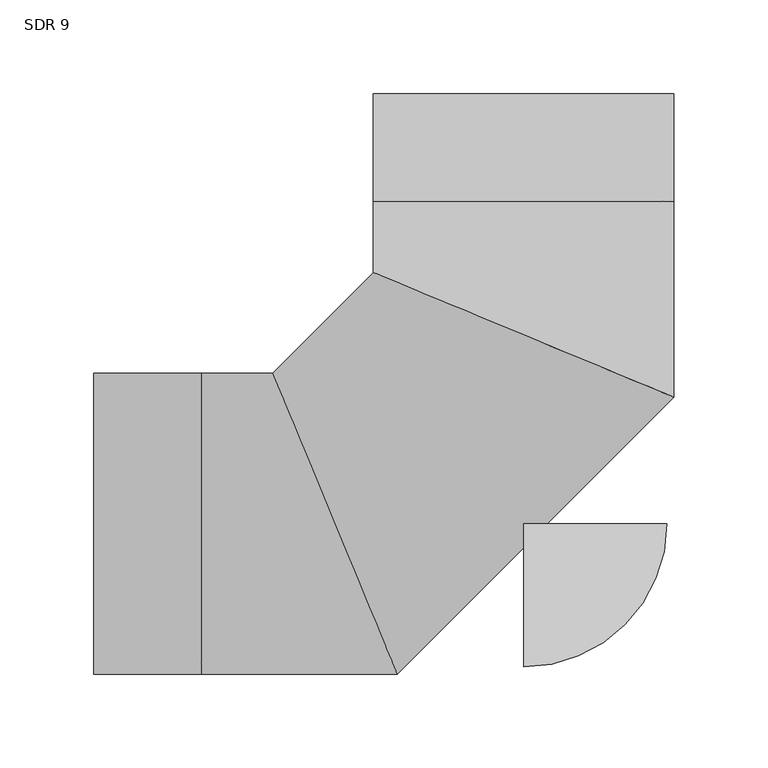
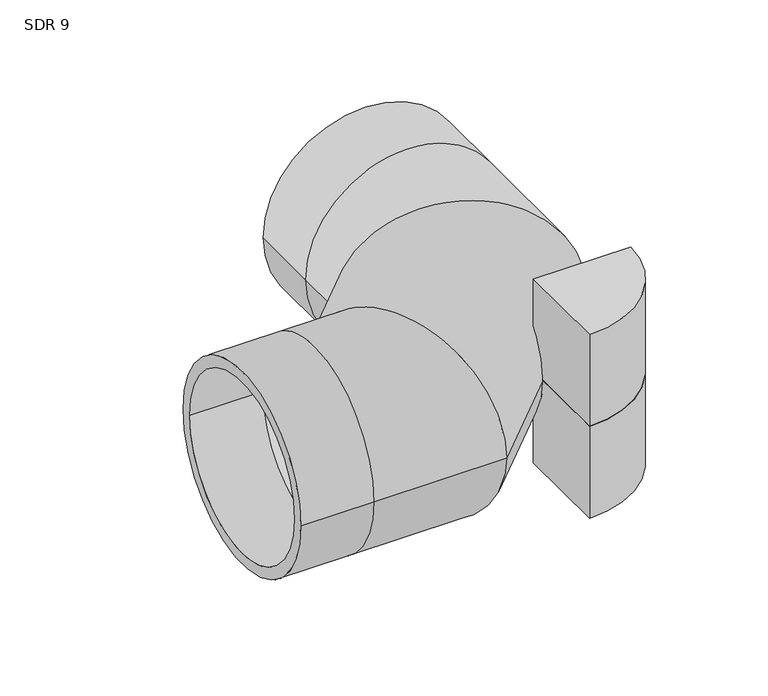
"""IFC4 building model written with IfcOpenShell, lengths in millimetres: pipe fitting geometry, Aquatherm - Elbow Blue BW Segmented : SDR 9."""

from ifc_helpers import new_model, si_unit, point, frame, origin, origin_with_axes, origin_2d, place, context, project, spatial, polyline, circle_curve, ellipse_curve, trimmed, segment, composite_curve, outline, extrude, source, transform, mapped, element, save
from ifc_brep_helpers import plane_surface, cylinder_surface, revolved_surface, advanced_brep


def sdr_9_1bad2ec4(model_context):
    return source(origin(), model_context, "Body", "SolidModel", [
        extrude(outline(composite_curve([segment(polyline([(0.0, -76.2), (0.0, 0.0), (76.2, 0.0)]), True, "CONTINUOUS"), segment(trimmed(circle_curve(origin_2d(), 76.2), [point((76.2, 0.0))], [point((0.0, -76.2))], False, "CARTESIAN"), True, "CONTINUOUS")], self_intersect=False)), frame((0.0, 0.0, -76.2), z_axis=(0.0, 0.0, 1.0), x_axis=(1.0, 0.0, 0.0)), (0.0, 0.0, 1.0), 76.2),
        extrude(outline(composite_curve([segment(trimmed(circle_curve(origin_2d(), 76.2), [point((76.2, 0.0))], [point((0.0, -76.2))], False, "CARTESIAN"), True, "CONTINUOUS"), segment(polyline([(0.0, -76.2), (0.0, 0.0), (76.2, 0.0)]), True, "CONTINUOUS")], self_intersect=False)), origin_with_axes(), (0.0, 0.0, 1.0), 76.2),
        advanced_brep(
        [(-228.6, -80.01, 0.0), (-228.6, 80.01, 0.0), (-228.6, -70.9187617, 0.0), (-228.6, 70.9187617, 0.0), (80.01, 228.6, 0.0), (-80.01, 228.6, 0.0), (70.9187617, 228.6, 0.0), (-70.9187617, 228.6, 0.0), (-171.45, -80.01, 0.0), (-171.45, 80.01, 0.0), (-171.45, -70.9187617, 0.0), (-171.45, 70.9187617, 0.0), (-67.2918576, -80.01, 0.0), (-133.5743119, 80.01, 0.0), (-71.0575718, -70.9187617, 0.0), (-129.8085976, 70.9187617, 0.0), (80.01, 67.2918576, 0.0), (-80.01, 133.5743119, 0.0), (70.9187617, 71.0575718, 0.0), (-70.9187617, 129.8085976, 0.0), (-80.01, 171.45, 0.0), (80.01, 171.45, 0.0), (-70.9187617, 171.45, 0.0), (70.9187617, 171.45, 0.0)],
        [
            (0, 1, circle_curve(frame((-228.6, 0.0, 0.0), z_axis=(-1.0, 0.0, 0.0), x_axis=(0.0, 1.0, 0.0)), 80.01)),
            (1, 0, circle_curve(frame((-228.6, 0.0, 0.0), z_axis=(-1.0, 0.0, 0.0), x_axis=(0.0, 1.0, 0.0)), 80.01)),
            (2, 3, circle_curve(frame((-228.6, 0.0, 0.0), z_axis=(1.0, 0.0, 0.0), x_axis=(0.0, 1.0, 0.0)), 70.9187617)),
            (3, 2, circle_curve(frame((-228.6, 0.0, 0.0), z_axis=(1.0, 0.0, 0.0), x_axis=(0.0, 1.0, 0.0)), 70.9187617)),
            (4, 5, circle_curve(frame((0.0, 228.6, 0.0), z_axis=(0.0, 1.0, 0.0), x_axis=(-1.0, 0.0, 0.0)), 80.01)),
            (5, 4, circle_curve(frame((0.0, 228.6, 0.0), z_axis=(0.0, 1.0, 0.0), x_axis=(-1.0, 0.0, 0.0)), 80.01)),
            (6, 7, circle_curve(frame((0.0, 228.6, 0.0), z_axis=(0.0, -1.0, 0.0), x_axis=(-1.0, 0.0, 0.0)), 70.9187617)),
            (7, 6, circle_curve(frame((0.0, 228.6, 0.0), z_axis=(0.0, -1.0, 0.0), x_axis=(-1.0, 0.0, 0.0)), 70.9187617)),
            (0, 8),
            (8, 9, circle_curve(frame((-171.45, 0.0, 0.0), z_axis=(-1.0, 0.0, 0.0), x_axis=(0.0, 1.0, 0.0)), 80.01)),
            (9, 1),
            (9, 8, circle_curve(frame((-171.45, 0.0, 0.0), z_axis=(-1.0, 0.0, 0.0), x_axis=(0.0, 1.0, 0.0)), 80.01)),
            (2, 10),
            (10, 11, circle_curve(frame((-171.45, 0.0, 0.0), z_axis=(1.0, 0.0, 0.0), x_axis=(0.0, 1.0, 0.0)), 70.9187617)),
            (11, 3),
            (11, 10, circle_curve(frame((-171.45, 0.0, 0.0), z_axis=(1.0, 0.0, 0.0), x_axis=(0.0, 1.0, 0.0)), 70.9187617)),
            (8, 12),
            (12, 13, ellipse_curve(frame((-100.4330847, 0.0, 0.0), z_axis=(-0.9238795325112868, -0.38268343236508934, 0.0), x_axis=(-0.3826834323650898, 0.9238795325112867, 0.0)), 86.6021999, 80.01)),
            (13, 9),
            (13, 12, ellipse_curve(frame((-100.4330847, 0.0, 0.0), z_axis=(-0.9238795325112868, -0.38268343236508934, 0.0), x_axis=(-0.3826834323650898, 0.9238795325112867, 0.0)), 86.6021999, 80.01)),
            (10, 14),
            (14, 15, ellipse_curve(frame((-100.4330847, 0.0, 0.0), z_axis=(0.9238795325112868, 0.38268343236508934, 0.0), x_axis=(0.3826834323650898, -0.9238795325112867, 0.0)), 76.7619145, 70.9187617)),
            (15, 11),
            (15, 14, ellipse_curve(frame((-100.4330847, 0.0, 0.0), z_axis=(0.9238795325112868, 0.38268343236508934, 0.0), x_axis=(0.3826834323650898, -0.9238795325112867, 0.0)), 76.7619145, 70.9187617)),
            (12, 16),
            (16, 17, ellipse_curve(frame((0.0, 100.4330847, 0.0), z_axis=(-0.3826834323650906, -0.9238795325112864, 0.0), x_axis=(-0.9238795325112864, 0.3826834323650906, 0.0)), 86.6021999, 80.01)),
            (17, 13),
            (17, 16, ellipse_curve(frame((0.0, 100.4330847, 0.0), z_axis=(-0.3826834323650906, -0.9238795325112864, 0.0), x_axis=(-0.9238795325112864, 0.3826834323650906, 0.0)), 86.6021999, 80.01)),
            (14, 18),
            (18, 19, ellipse_curve(frame((0.0, 100.4330847, 0.0), z_axis=(0.3826834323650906, 0.9238795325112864, 0.0), x_axis=(0.9238795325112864, -0.3826834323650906, 0.0)), 76.7619145, 70.9187617)),
            (19, 15),
            (19, 18, ellipse_curve(frame((0.0, 100.4330847, 0.0), z_axis=(0.3826834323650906, 0.9238795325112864, 0.0), x_axis=(0.9238795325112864, -0.3826834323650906, 0.0)), 76.7619145, 70.9187617)),
            (20, 21, circle_curve(frame((0.0, 171.45, 0.0), z_axis=(0.0, 1.0, 0.0), x_axis=(-1.0, 0.0, 0.0)), 80.01)),
            (21, 4),
            (5, 20),
            (21, 20, circle_curve(frame((0.0, 171.45, 0.0), z_axis=(0.0, 1.0, 0.0), x_axis=(-1.0, 0.0, 0.0)), 80.01)),
            (22, 23, circle_curve(frame((0.0, 171.45, 0.0), z_axis=(0.0, -1.0, 0.0), x_axis=(-1.0, 0.0, 0.0)), 70.9187617)),
            (23, 6),
            (7, 22),
            (23, 22, circle_curve(frame((0.0, 171.45, 0.0), z_axis=(0.0, -1.0, 0.0), x_axis=(-1.0, 0.0, 0.0)), 70.9187617)),
            (16, 21),
            (20, 17),
            (18, 23),
            (22, 19),
        ],
        [
            plane_surface(frame((-228.6, 0.0, 0.0), z_axis=(-1.0, 0.0, 0.0), x_axis=(0.0, 0.0, 1.0))),
            plane_surface(frame((0.0, 228.6, 0.0), z_axis=(0.0, 1.0, 0.0), x_axis=(0.0, 0.0, 1.0))),
            cylinder_surface(frame((-228.6, 0.0, 0.0), z_axis=(-1.0, 0.0, 0.0), x_axis=(0.0, 1.0, 0.0)), 80.01),
            revolved_surface(polyline([(-171.45, 70.9187617, 0.0), (-228.6, 70.9187617, 0.0)]), (-228.6, 0.0, 0.0), (1.0, 0.0, 0.0)),
            cylinder_surface(frame((-171.45, 0.0, 0.0), z_axis=(-1.0, 0.0, 0.0), x_axis=(0.0, 1.0, 0.0)), 80.01),
            revolved_surface(polyline([(-71.05757178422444, 70.9187617, 0.0), (-171.45, 70.9187617, 0.0)]), (-171.45, 0.0, 0.0), (1.0, 0.0, 0.0)),
            cylinder_surface(frame((-100.4330847, 0.0, 0.0), z_axis=(-0.7071067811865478, -0.7071067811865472, 0.0), x_axis=(-0.7071067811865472, 0.7071067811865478, 0.0)), 80.01),
            revolved_surface(polyline([(-29.375512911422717, 171.3518464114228, 0.0), (-171.3518464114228, 29.375512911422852, 0.0)]), (-100.4330847, 0.0, 0.0), (0.7071067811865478, 0.7071067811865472, 0.0)),
            cylinder_surface(frame((0.0, 171.45, 0.0), z_axis=(0.0, -1.0, 0.0), x_axis=(-1.0, 0.0, 0.0)), 80.01),
            revolved_surface(polyline([(-70.9187617, 228.6, 0.0), (-70.9187617, 171.45, 0.0)]), (0.0, 171.45, 0.0), (0.0, 1.0, 0.0)),
            cylinder_surface(frame((0.0, 100.4330847, 0.0), z_axis=(0.0, -1.0, 0.0), x_axis=(-1.0, 0.0, 0.0)), 80.01),
            revolved_surface(polyline([(-70.9187617, 171.45, 0.0), (-70.9187617, 71.05757178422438, 0.0)]), (0.0, 100.4330847, 0.0), (0.0, 1.0, 0.0)),
        ],
        [
            (0, [[1, 2], [3, 4]]),
            (1, [[5, 6], [7, 8]]),
            (2, [[-1, 9, 10, 11]]),
            (2, [[-2, -11, 12, -9]]),
            (3, [[-3, 13, 14, 15]]),
            (3, [[-4, -15, 16, -13]]),
            (4, [[-10, 17, 18, 19]]),
            (4, [[-12, -19, 20, -17]]),
            (5, [[-14, 21, 22, 23]]),
            (5, [[-16, -23, 24, -21]]),
            (6, [[-18, 25, 26, 27]]),
            (6, [[-20, -27, 28, -25]]),
            (7, [[-22, 29, 30, 31]]),
            (7, [[-24, -31, 32, -29]]),
            (8, [[33, 34, -6, 35]]),
            (8, [[36, -35, -5, -34]]),
            (9, [[37, 38, -8, 39]]),
            (9, [[40, -39, -7, -38]]),
            (10, [[-26, 41, -33, 42]]),
            (10, [[-28, -42, -36, -41]]),
            (11, [[-30, 43, -37, 44]]),
            (11, [[-32, -44, -40, -43]]),
        ],
    ),
    ])


if __name__ == "__main__":
    model = new_model("IFC4")
    model_context = context("Model", 3, world=origin())
    ifc_project = project(units=[si_unit("LENGTHUNIT", "METRE", prefix="MILLI")], contexts=[model_context])
    site = spatial("IfcSite", under=ifc_project)
    building = spatial("IfcBuilding", under=site)
    placement = place(None, origin())
    sdr_9_shape = sdr_9_1bad2ec4(model_context)
    element("IfcPipeFitting", 1, ObjectType="Aquatherm - Elbow Blue BW Segmented : SDR 9", at=placement, inside=building, context=model_context, shape_type="MappedRepresentation", body=[
        mapped(sdr_9_shape, transform((0.0, 0.0, 0.0), x_axis=(1.0, 0.0, 0.0), y_axis=(0.0, 1.0, 0.0), z_axis=(0.0, 0.0, 1.0))),
    ])
    save(model, "model.ifc")
